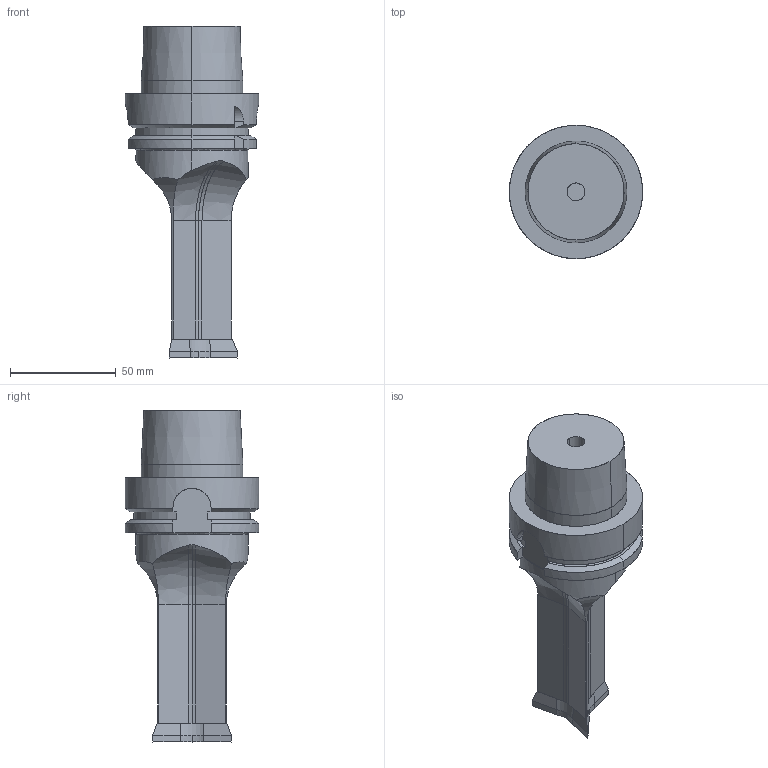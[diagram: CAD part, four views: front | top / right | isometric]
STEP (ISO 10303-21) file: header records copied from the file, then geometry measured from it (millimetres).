
FILE_DESCRIPTION(('OPEN MIND Model'),'2;1');
FILE_NAME('OPEN MIND Shape Model','2021-08-11T14:19:26',('Author'),( 'hyperCAD-S '),'hyperCAD-S STEP processor 6.6','hyperCAD-S 1.0' ,'Unknown');
FILE_SCHEMA(('AUTOMOTIVE_DESIGN { 1 2 10303 214 -1 1 5 4 }'));
Length unit declared in the file: millimetre
Products named in the file (108): Product 1; Product 1.1; Product 1.2; Product 1.3; Product 1.4; Product 1.5; Product 1.6; Product 1.7; Product 1.8; Product 1.9; Product 1.10; Product 1.11; Product 1.12; Product 1.13; Product 1.14; Product 1.15; Product 1.16; Product 1.17; Product 1.18; Product 1.19; Product 1.20; Product 1.21; Product 1.22; Product 1.23; Product 1.24; Product 1.25; Product 1.26; Product 1.27; Product 1.28; Product 1.29; Product 1.30; Product 1.31; Product 1.32; Product 1.33; Product 1.34; Product 1.35; Product 1.36; Product 1.37; Product 1.38; Product 1.39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
Assembly tree (107 placements, depth 2):
  Product 1
    Product 1.1
    Product 1.2
    Product 1.3
    Product 1.4
    Product 1.5
    Product 1.6
    Product 1.7
    Product 1.8
    Product 1.9
    Product 1.10
    Product 1.11
    Product 1.12
    Product 1.13
    Product 1.14
    Product 1.15
    Product 1.16
    Product 1.17
    Product 1.18
    Product 1.19
    Product 1.20
    Product 1.21
    Product 1.22
    Product 1.23
    Product 1.24
    Product 1.25
    Product 1.26
    Product 1.27
    Product 1.28
    Product 1.29
    Product 1.30
    Product 1.31
    Product 1.32
    Product 1.33
    Product 1.34
    Product 1.35
    Product 1.36
    Product 1.37
    Product 1.38
    Product 1.39
    Product 1.40
    Product 1.41
    Product 1.42
    Product 1.43
    Product 1.44
    Product 1.45
    Product 1.46
    Product 1.47
    Product 1.48
    Product 1.49
    Product 1.50
    Product 1.51
    Product 1.52
    Product 1.53
    Product 1.54
    Product 1.55
    Product 1.56
    Product 1.57
    Product 1.58
    Product 1.59
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Bounding box: 63 x 63 x 156.81 mm (x, y, z)
Volume: 1077.2 mm3; surface area: 29525 mm2
Topology: 1 solids, 107 shells, 119 faces, 592 edges, 581 vertices
Faces by surface type: plane 44, cylinder 33, revolution 31, extrusion 11
Entity records: 15117 total; most frequent: CARTESIAN_POINT 7129, B_SPLINE_CURVE_WITH_KNOTS 1068, ORIENTED_EDGE 625, PCURVE 625, DEFINITIONAL_REPRESENTATION 625, EDGE_CURVE 592, SURFACE_CURVE 592, VERTEX_POINT 581
